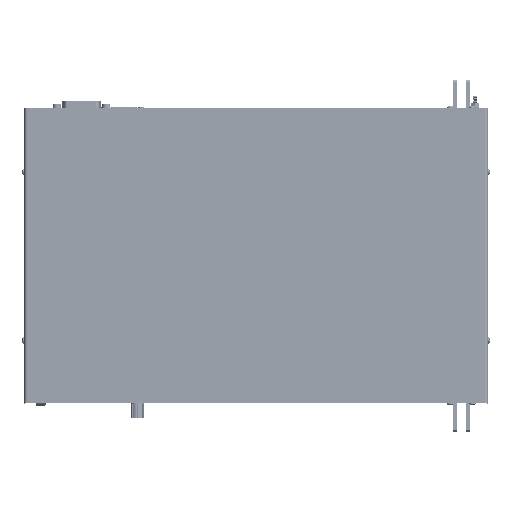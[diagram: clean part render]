
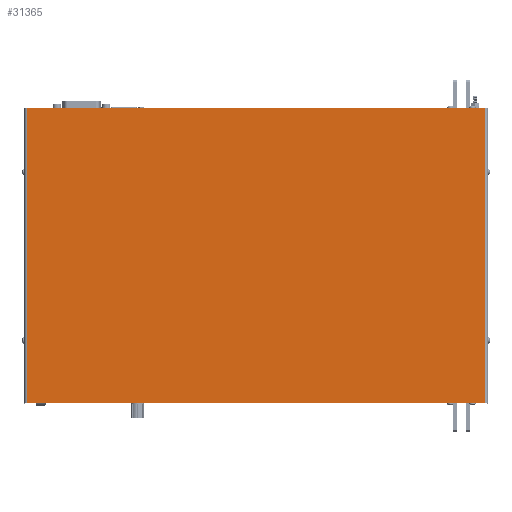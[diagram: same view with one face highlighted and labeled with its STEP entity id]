
A CAD part, top view. The second image highlights one B-rep face of the part: STEP entity #31365.
In plain terms, the highlighted planar face has unit normal (0, 0, 1).
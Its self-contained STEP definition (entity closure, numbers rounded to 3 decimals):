
#31365=ADVANCED_FACE('',(#64476),#64477,.T.);
#64476=FACE_OUTER_BOUND('',#110489,.T.);
#64477=PLANE('',#110490);
#110489=EDGE_LOOP('',(#205842,#205843,#205844,#205845));
#110490=AXIS2_PLACEMENT_3D('',#205846,#205847,#205848);
#205842=ORIENTED_EDGE('',*,*,#247306,.F.);
#205843=ORIENTED_EDGE('',*,*,#246976,.T.);
#205844=ORIENTED_EDGE('',*,*,#247308,.T.);
#205845=ORIENTED_EDGE('',*,*,#247083,.F.);
#205846=CARTESIAN_POINT('',(333.282,306.75,100.184));
#205847=DIRECTION('',(0.,0.,1.0));
#205848=DIRECTION('',(-1.0,0.,0.));
#246976=EDGE_CURVE('',#303311,#303309,#303312,.T.);
#247083=EDGE_CURVE('',#303421,#303416,#303423,.T.);
#247306=EDGE_CURVE('',#303311,#303421,#303750,.T.);
#247308=EDGE_CURVE('',#303309,#303416,#303752,.T.);
#303309=VERTEX_POINT('',#384918);
#303311=VERTEX_POINT('',#384920);
#303312=LINE('',#384921,#384922);
#303416=VERTEX_POINT('',#385075);
#303421=VERTEX_POINT('',#385081);
#303423=LINE('',#385083,#385084);
#303750=LINE('',#385566,#385567);
#303752=LINE('',#385569,#385570);
#384918=CARTESIAN_POINT('',(5.032,26.75,100.184));
#384920=CARTESIAN_POINT('',(5.032,306.75,100.184));
#384921=CARTESIAN_POINT('',(5.032,306.75,100.184));
#384922=VECTOR('',#428656,1.0);
#385075=CARTESIAN_POINT('',(439.033,26.75,100.184));
#385081=CARTESIAN_POINT('',(439.033,306.75,100.184));
#385083=CARTESIAN_POINT('',(439.033,306.75,100.184));
#385084=VECTOR('',#428716,1.0);
#385566=CARTESIAN_POINT('',(227.532,306.75,100.184));
#385567=VECTOR('',#428902,1.0);
#385569=CARTESIAN_POINT('',(227.532,26.75,100.184));
#385570=VECTOR('',#428903,1.0);
#428656=DIRECTION('',(0.0,-1.0,0.0));
#428716=DIRECTION('',(0.0,-1.0,0.0));
#428902=DIRECTION('',(1.0,0.0,0.0));
#428903=DIRECTION('',(1.0,0.0,0.0));
